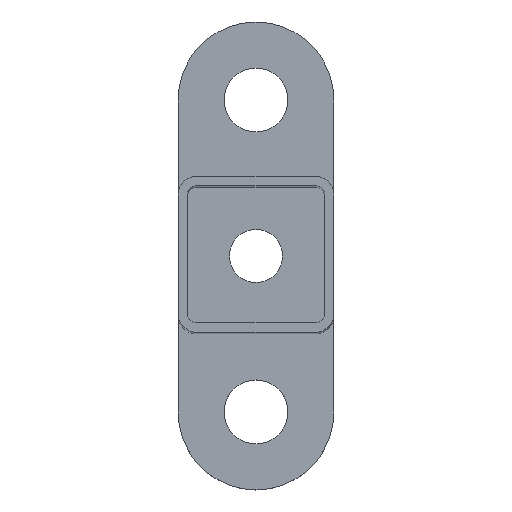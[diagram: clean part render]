
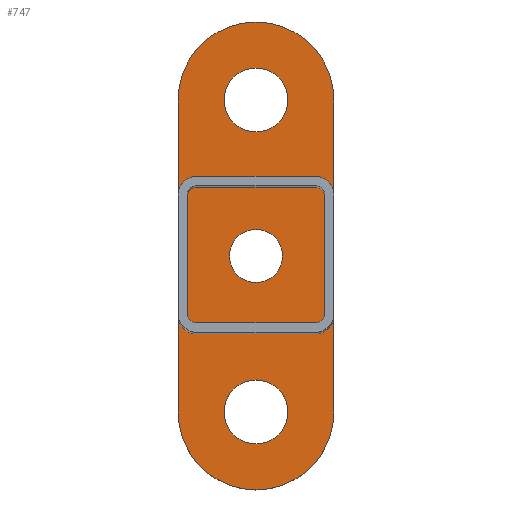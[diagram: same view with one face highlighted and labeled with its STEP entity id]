
A CAD part, top view. The second image highlights one B-rep face of the part: STEP entity #747.
In plain terms, the highlighted planar face has unit normal (0, 0, 1).
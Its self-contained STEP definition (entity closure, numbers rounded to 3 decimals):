
#4 = EDGE_LOOP ( 'NONE', ( #937, #744 ) ) ;
#31 = CIRCLE ( 'NONE', #1006, 12.5 ) ;
#53 = DIRECTION ( 'NONE',  ( 1., 0., 0. ) ) ;
#55 = CARTESIAN_POINT ( 'NONE',  ( 0., -25., 3. ) ) ;
#75 = DIRECTION ( 'NONE',  ( 0., 0., 1. ) ) ;
#82 = EDGE_LOOP ( 'NONE', ( #366, #1000 ) ) ;
#83 = CARTESIAN_POINT ( 'NONE',  ( 5.125, 25., 3. ) ) ;
#90 = CARTESIAN_POINT ( 'NONE',  ( 0., -25., 3. ) ) ;
#96 = ORIENTED_EDGE ( 'NONE', *, *, #898, .F. ) ;
#111 = AXIS2_PLACEMENT_3D ( 'NONE', #461, #684, #844 ) ;
#132 = CARTESIAN_POINT ( 'NONE',  ( -5.125, 25., 3. ) ) ;
#179 = LINE ( 'NONE', #867, #791 ) ;
#193 = CARTESIAN_POINT ( 'NONE',  ( 12.5, -25., 3. ) ) ;
#201 = FACE_BOUND ( 'NONE', #493, .T. ) ;
#209 = EDGE_LOOP ( 'NONE', ( #286, #932, #913, #426 ) ) ;
#213 = AXIS2_PLACEMENT_3D ( 'NONE', #227, #380, #53 ) ;
#227 = CARTESIAN_POINT ( 'NONE',  ( 0., 0., 3. ) ) ;
#237 = DIRECTION ( 'NONE',  ( 0., 0., 1. ) ) ;
#247 = FACE_OUTER_BOUND ( 'NONE', #209, .T. ) ;
#255 = VERTEX_POINT ( 'NONE', #548 ) ;
#263 = AXIS2_PLACEMENT_3D ( 'NONE', #749, #367, #513 ) ;
#286 = ORIENTED_EDGE ( 'NONE', *, *, #584, .T. ) ;
#294 = AXIS2_PLACEMENT_3D ( 'NONE', #682, #525, #909 ) ;
#324 = CIRCLE ( 'NONE', #582, 5.125 ) ;
#336 = DIRECTION ( 'NONE',  ( 0., -1., 0. ) ) ;
#354 = LINE ( 'NONE', #193, #373 ) ;
#363 = ORIENTED_EDGE ( 'NONE', *, *, #926, .F. ) ;
#366 = ORIENTED_EDGE ( 'NONE', *, *, #879, .F. ) ;
#367 = DIRECTION ( 'NONE',  ( 0., 0., 1. ) ) ;
#368 = EDGE_CURVE ( 'NONE', #968, #680, #179, .T. ) ;
#369 = DIRECTION ( 'NONE',  ( 1., 0., 0. ) ) ;
#373 = VECTOR ( 'NONE', #498, 1000. ) ;
#374 = CIRCLE ( 'NONE', #263, 4.25 ) ;
#380 = DIRECTION ( 'NONE',  ( 0., 0., 1. ) ) ;
#381 = DIRECTION ( 'NONE',  ( 1., 0., 0. ) ) ;
#384 = VERTEX_POINT ( 'NONE', #801 ) ;
#396 = CARTESIAN_POINT ( 'NONE',  ( -5.125, -25., 3. ) ) ;
#401 = DIRECTION ( 'NONE',  ( 0., 0., 1. ) ) ;
#406 = DIRECTION ( 'NONE',  ( 0., 0., 1. ) ) ;
#426 = ORIENTED_EDGE ( 'NONE', *, *, #368, .T. ) ;
#461 = CARTESIAN_POINT ( 'NONE',  ( 0., 25., 3. ) ) ;
#466 = CARTESIAN_POINT ( 'NONE',  ( -12.5, -25., 3. ) ) ;
#477 = DIRECTION ( 'NONE',  ( 1., 0., 0. ) ) ;
#482 = FACE_BOUND ( 'NONE', #82, .T. ) ;
#493 = EDGE_LOOP ( 'NONE', ( #363, #96 ) ) ;
#498 = DIRECTION ( 'NONE',  ( 0., 1., 0. ) ) ;
#503 = EDGE_CURVE ( 'NONE', #769, #255, #679, .T. ) ;
#513 = DIRECTION ( 'NONE',  ( 1., 0., 0. ) ) ;
#525 = DIRECTION ( 'NONE',  ( 0., 0., 1. ) ) ;
#548 = CARTESIAN_POINT ( 'NONE',  ( 5.125, -25., 3. ) ) ;
#554 = EDGE_CURVE ( 'NONE', #796, #570, #354, .T. ) ;
#567 = CIRCLE ( 'NONE', #294, 5.125 ) ;
#570 = VERTEX_POINT ( 'NONE', #810 ) ;
#575 = EDGE_CURVE ( 'NONE', #255, #769, #324, .T. ) ;
#578 = CARTESIAN_POINT ( 'NONE',  ( 12.5, -25., 3. ) ) ;
#582 = AXIS2_PLACEMENT_3D ( 'NONE', #928, #237, #369 ) ;
#584 = EDGE_CURVE ( 'NONE', #680, #796, #31, .T. ) ;
#592 = DIRECTION ( 'NONE',  ( 1., 0., 0. ) ) ;
#613 = EDGE_CURVE ( 'NONE', #570, #968, #759, .T. ) ;
#633 = AXIS2_PLACEMENT_3D ( 'NONE', #783, #401, #592 ) ;
#638 = FACE_BOUND ( 'NONE', #4, .T. ) ;
#649 = AXIS2_PLACEMENT_3D ( 'NONE', #55, #751, #673 ) ;
#650 = CIRCLE ( 'NONE', #213, 4.25 ) ;
#667 = CARTESIAN_POINT ( 'NONE',  ( -12.5, 25., 3. ) ) ;
#673 = DIRECTION ( 'NONE',  ( 1., 0., 0. ) ) ;
#679 = CIRCLE ( 'NONE', #649, 5.125 ) ;
#680 = VERTEX_POINT ( 'NONE', #466 ) ;
#682 = CARTESIAN_POINT ( 'NONE',  ( 0., 25., 3. ) ) ;
#684 = DIRECTION ( 'NONE',  ( 0., 0., 1. ) ) ;
#727 = VERTEX_POINT ( 'NONE', #946 ) ;
#744 = ORIENTED_EDGE ( 'NONE', *, *, #575, .F. ) ;
#747 = ADVANCED_FACE ( 'NONE', ( #482, #247, #201, #638 ), #787, .T. ) ;
#749 = CARTESIAN_POINT ( 'NONE',  ( 0., 0., 3. ) ) ;
#751 = DIRECTION ( 'NONE',  ( 0., 0., 1. ) ) ;
#759 = CIRCLE ( 'NONE', #111, 12.5 ) ;
#768 = VERTEX_POINT ( 'NONE', #83 ) ;
#769 = VERTEX_POINT ( 'NONE', #396 ) ;
#783 = CARTESIAN_POINT ( 'NONE',  ( 0., 25., 3. ) ) ;
#787 = PLANE ( 'NONE',  #840 ) ;
#791 = VECTOR ( 'NONE', #336, 1000. ) ;
#796 = VERTEX_POINT ( 'NONE', #578 ) ;
#801 = CARTESIAN_POINT ( 'NONE',  ( 4.25, 0., 3. ) ) ;
#810 = CARTESIAN_POINT ( 'NONE',  ( 12.5, 25., 3. ) ) ;
#840 = AXIS2_PLACEMENT_3D ( 'NONE', #90, #406, #477 ) ;
#844 = DIRECTION ( 'NONE',  ( 1., 0., 0. ) ) ;
#854 = CARTESIAN_POINT ( 'NONE',  ( 0., -25., 3. ) ) ;
#865 = EDGE_CURVE ( 'NONE', #768, #979, #989, .T. ) ;
#867 = CARTESIAN_POINT ( 'NONE',  ( -12.5, -25., 3. ) ) ;
#879 = EDGE_CURVE ( 'NONE', #979, #768, #567, .T. ) ;
#898 = EDGE_CURVE ( 'NONE', #384, #727, #374, .T. ) ;
#909 = DIRECTION ( 'NONE',  ( 1., 0., 0. ) ) ;
#913 = ORIENTED_EDGE ( 'NONE', *, *, #613, .T. ) ;
#926 = EDGE_CURVE ( 'NONE', #727, #384, #650, .T. ) ;
#928 = CARTESIAN_POINT ( 'NONE',  ( 0., -25., 3. ) ) ;
#932 = ORIENTED_EDGE ( 'NONE', *, *, #554, .T. ) ;
#937 = ORIENTED_EDGE ( 'NONE', *, *, #503, .F. ) ;
#946 = CARTESIAN_POINT ( 'NONE',  ( -4.25, 0., 3. ) ) ;
#968 = VERTEX_POINT ( 'NONE', #667 ) ;
#979 = VERTEX_POINT ( 'NONE', #132 ) ;
#989 = CIRCLE ( 'NONE', #633, 5.125 ) ;
#1000 = ORIENTED_EDGE ( 'NONE', *, *, #865, .F. ) ;
#1006 = AXIS2_PLACEMENT_3D ( 'NONE', #854, #75, #381 ) ;
